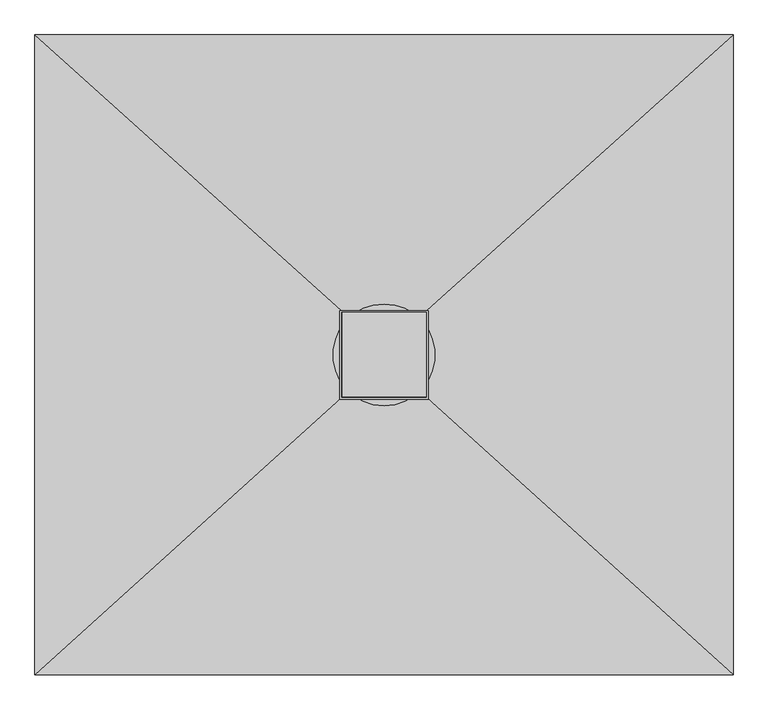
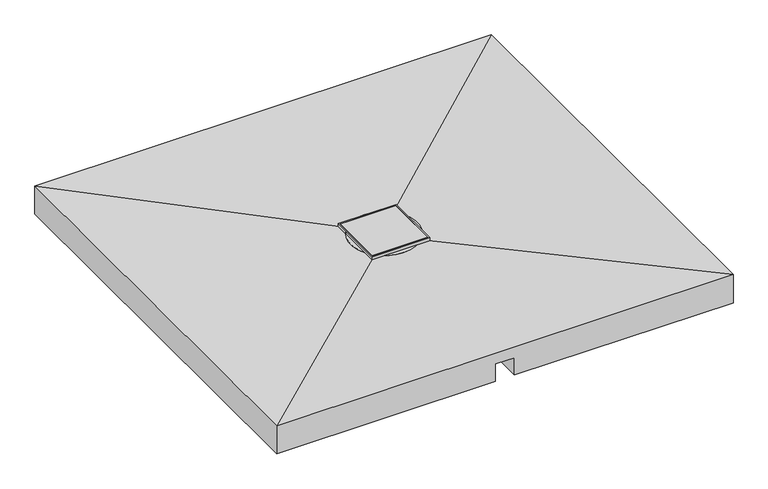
"""IFC4 building model written with IfcOpenShell, lengths in millimetres: sanitary terminal geometry, NLRS_PF_52_UN_Showerboard Aqua Brilliant_Easydrain : Aqua Brilliant zijuitloop laag 50mm."""

from ifc_helpers import new_model, si_unit, point, frame, frame_2d, origin, origin_2d, place, context, project, spatial, polyline, circle_curve, trimmed, segment, composite_curve, outline, extrude, faceted_brep, source, transform, mapped, element, save
from ifc_brep_helpers import plane_surface, cylinder_surface, revolved_surface, advanced_brep


def sanitary_terminal_1113593c(model_context):
    return source(origin(), model_context, "Body", "SolidModel", [
        extrude(outline(composite_curve([segment(trimmed(circle_curve(frame_2d((-49.5, 0.0)), 25.0), [point((-74.5, 0.0))], [point((-24.5, 0.0))], False, "CARTESIAN"), True, "CONTINUOUS"), segment(trimmed(circle_curve(frame_2d((-49.5, 0.0)), 25.0), [point((-24.5, 0.0))], [point((-74.5, 0.0))], False, "CARTESIAN"), True, "CONTINUOUS")], self_intersect=False)), frame((0.0, -125.0, 0.0), z_axis=(0.0, 1.0, 0.0), x_axis=(0.0, 0.0, 1.0)), (0.0, 0.0, 1.0), 125.0),
        faceted_brep([(600.0, 550.0, -77.0), (600.0, -550.0, -77.0), (25.0, -550.0, -77.0), (25.0, 0.0, -77.0), (-25.0, 0.0, -77.0), (-25.0, -550.0, -77.0), (-600.0, -550.0, -77.0), (-600.0, 550.0, -77.0), (-600.0, 550.0, 1.0), (600.0, 550.0, 1.0), (-600.0, -550.0, 1.0), (-25.0, -550.0, -29.0), (25.0, -550.0, -29.0), (600.0, -550.0, 1.0), (73.0, 76.0, -9.0), (-73.0, 76.0, -9.0), (-73.0, -73.0, -9.0), (73.0, -73.0, -9.0), (-25.0, 0.0, -29.0), (25.0, 0.0, -29.0)], [[[0, 1, 2, 3, 4, 5, 6, 7]], [[0, 7, 8, 9]], [[7, 6, 10, 8]], [[10, 6, 5, 11, 12, 2, 1, 13]], [[1, 0, 9, 13]], [[14, 15, 16, 17]], [[15, 14, 9, 8]], [[16, 15, 8, 10]], [[17, 16, 10, 13]], [[14, 17, 13, 9]], [[18, 4, 3, 19]], [[18, 19, 12, 11]], [[19, 3, 2, 12]], [[4, 18, 11, 5]]]),
        extrude(outline(polyline([(76.0, 76.0), (76.0, -76.0), (-76.0, -76.0), (-76.0, 76.0), (76.0, 76.0)]), holes=[polyline([(73.0, 73.0), (-73.0, 73.0), (-73.0, -73.0), (73.0, -73.0), (73.0, 73.0)])]), frame((0.0, 0.0, -9.0), z_axis=(0.0, 0.0, 1.0), x_axis=(1.0, 0.0, 0.0)), (0.0, 0.0, 1.0), 9.0),
        extrude(outline(polyline([(74.0, 74.0), (74.0, -72.0), (-72.0, -72.0), (-72.0, 74.0), (74.0, 74.0)])), frame((0.0, 0.0, -9.0), z_axis=(0.0, 0.0, 1.0), x_axis=(1.0, 0.0, 0.0)), (0.0, 0.0, 1.0), 9.0),
        extrude(outline(composite_curve([segment(trimmed(circle_curve(origin_2d(), 87.5), [point((0.0, 87.5))], [point((0.0, -87.5))], False, "CARTESIAN"), True, "CONTINUOUS"), segment(trimmed(circle_curve(origin_2d(), 87.5), [point((0.0, -87.5))], [point((0.0, 87.5))], False, "CARTESIAN"), True, "CONTINUOUS")], self_intersect=False)), frame((0.0, 0.0, -11.0), z_axis=(0.0, 0.0, 1.0), x_axis=(1.0, 0.0, 0.0)), (0.0, 0.0, 1.0), 3.0),
        advanced_brep(
        [(25.0, 0.0, -77.0), (-25.0, 0.0, -77.0), (-73.0, 0.0, -77.0), (-72.9614474, 2.372172, -77.0), (-97.0710678, 26.4817925, -77.0), (-90.348995, 43.5467685, -77.0), (-57.7248547, 44.6860286, -77.0), (57.7248547, 44.6860286, -77.0), (90.348995, 43.5467685, -77.0), (97.0710678, 26.4817925, -77.0), (72.9614474, 2.372172, -77.0), (73.0, 0.0, -77.0), (-25.0, -62.3925051, -77.0), (-37.8969037, -62.3925051, -77.0), (37.8969037, -62.3925051, -77.0), (25.0, -62.3925051, -77.0), (73.0, 0.0, -9.0), (-73.0, 0.0, -9.0), (-25.0, 0.0, -9.0), (25.0, 0.0, -9.0), (85.3290047, 0.0, -43.5), (-85.3290047, 0.0, -43.5), (-73.0, 0.0, -43.5), (73.0, 0.0, -43.5), (-58.2083701, -62.3925051, -43.5), (-37.8969037, -62.3925051, -43.5), (37.8969037, -62.3925051, -43.5), (58.2083701, -62.3925051, -43.5), (85.3290047, 0.0, -46.0), (-85.3290047, 0.0, -46.0), (58.2083701, -62.3925051, -46.0), (-58.2083701, -62.3925051, -46.0), (73.0, 0.0, -46.0), (-73.0, 0.0, -46.0), (37.8969037, -62.3925051, -46.0), (-37.8969037, -62.3925051, -46.0), (-25.0, -62.3925051, -43.5), (-25.0, 0.0, -43.5), (25.0, 0.0, -43.5), (25.0, -62.3925051, -43.5), (-97.0710678, 26.4817925, -73.5), (-72.9614474, 2.372172, -73.5), (-57.7248547, 44.6860286, -73.5), (-90.348995, 43.5467685, -73.5), (97.0710678, 26.4817925, -73.5), (90.348995, 43.5467685, -73.5), (57.7248547, 44.6860286, -73.5), (72.9614474, 2.372172, -73.5)],
        [
            (0, 1, circle_curve(frame((0.0, 0.0, -77.0), z_axis=(0.0, 0.0, 1.0), x_axis=(-1.0, 0.0, 0.0)), 25.0)),
            (1, 2),
            (2, 3, circle_curve(frame((0.0, 0.0, -77.0), z_axis=(0.0, 0.0, -1.0), x_axis=(-1.0, 0.0, 0.0)), 73.0)),
            (3, 4),
            (4, 5, circle_curve(frame((-90.0, 33.5528603, -77.0), z_axis=(0.0, 0.0, -1.0), x_axis=(-1.0, 0.0, 0.0)), 10.0)),
            (5, 6),
            (6, 7, circle_curve(frame((0.0, 0.0, -77.0), z_axis=(0.0, 0.0, -1.0), x_axis=(-1.0, 0.0, 0.0)), 73.0)),
            (7, 8),
            (8, 9, circle_curve(frame((90.0, 33.5528603, -77.0), z_axis=(0.0, 0.0, -1.0), x_axis=(-1.0, 0.0, 0.0)), 10.0)),
            (9, 10),
            (10, 11, circle_curve(frame((0.0, 0.0, -77.0), z_axis=(0.0, 0.0, -1.0), x_axis=(-1.0, 0.0, 0.0)), 73.0)),
            (11, 0),
            (1, 12),
            (12, 13),
            (13, 2, circle_curve(frame((0.0, 0.0, -77.0), z_axis=(0.0, 0.0, -1.0), x_axis=(-1.0, 0.0, 0.0)), 73.0)),
            (11, 14, circle_curve(frame((0.0, 0.0, -77.0), z_axis=(0.0, 0.0, -1.0), x_axis=(-1.0, 0.0, 0.0)), 73.0)),
            (14, 15),
            (15, 0),
            (16, 17, circle_curve(frame((0.0, 0.0, -9.0), z_axis=(0.0, 0.0, 1.0), x_axis=(-1.0, 0.0, 0.0)), 73.0)),
            (17, 18),
            (18, 19, circle_curve(frame((0.0, 0.0, -9.0), z_axis=(0.0, 0.0, -1.0), x_axis=(-1.0, 0.0, 0.0)), 25.0)),
            (19, 16),
            (17, 16, circle_curve(frame((0.0, 0.0, -9.0), z_axis=(0.0, 0.0, 1.0), x_axis=(-1.0, 0.0, 0.0)), 73.0)),
            (19, 18, circle_curve(frame((0.0, 0.0, -9.0), z_axis=(0.0, 0.0, -1.0), x_axis=(-1.0, 0.0, 0.0)), 25.0)),
            (20, 21, circle_curve(frame((0.0, 0.0, -43.5), z_axis=(0.0, 0.0, 1.0), x_axis=(-1.0, 0.0, 0.0)), 85.3290047)),
            (21, 22),
            (22, 23, circle_curve(frame((0.0, 0.0, -43.5), z_axis=(0.0, 0.0, -1.0), x_axis=(-1.0, 0.0, 0.0)), 73.0)),
            (23, 20),
            (21, 24, circle_curve(frame((0.0, 0.0, -43.5), z_axis=(0.0, 0.0, 1.0), x_axis=(-1.0, 0.0, 0.0)), 85.3290047)),
            (24, 25),
            (25, 22, circle_curve(frame((0.0, 0.0, -43.5), z_axis=(0.0, 0.0, -1.0), x_axis=(-1.0, 0.0, 0.0)), 73.0)),
            (23, 26, circle_curve(frame((0.0, 0.0, -43.5), z_axis=(0.0, 0.0, -1.0), x_axis=(-1.0, 0.0, 0.0)), 73.0)),
            (26, 27),
            (27, 20, circle_curve(frame((0.0, 0.0, -43.5), z_axis=(0.0, 0.0, 1.0), x_axis=(-1.0, 0.0, 0.0)), 85.3290047)),
            (20, 28),
            (28, 29, circle_curve(frame((0.0, 0.0, -46.0), z_axis=(0.0, 0.0, 1.0), x_axis=(-1.0, 0.0, 0.0)), 85.3290047)),
            (29, 21),
            (27, 30),
            (30, 28, circle_curve(frame((0.0, 0.0, -46.0), z_axis=(0.0, 0.0, 1.0), x_axis=(-1.0, 0.0, 0.0)), 85.3290047)),
            (29, 31, circle_curve(frame((0.0, 0.0, -46.0), z_axis=(0.0, 0.0, 1.0), x_axis=(-1.0, 0.0, 0.0)), 85.3290047)),
            (31, 24),
            (28, 32),
            (32, 33, circle_curve(frame((0.0, 0.0, -46.0), z_axis=(0.0, 0.0, 1.0), x_axis=(-1.0, 0.0, 0.0)), 73.0)),
            (33, 29),
            (30, 34),
            (34, 32, circle_curve(frame((0.0, 0.0, -46.0), z_axis=(0.0, 0.0, 1.0), x_axis=(-1.0, 0.0, 0.0)), 73.0)),
            (33, 35, circle_curve(frame((0.0, 0.0, -46.0), z_axis=(0.0, 0.0, 1.0), x_axis=(-1.0, 0.0, 0.0)), 73.0)),
            (35, 31),
            (25, 36),
            (36, 37),
            (37, 38, circle_curve(frame((0.0, 0.0, -43.5), z_axis=(0.0, 0.0, 1.0), x_axis=(-1.0, 0.0, 0.0)), 25.0)),
            (38, 39),
            (39, 26),
            (26, 25, circle_curve(frame((0.0, 0.0, -43.5), z_axis=(0.0, 0.0, -1.0), x_axis=(-1.0, 0.0, 0.0)), 73.0)),
            (35, 13),
            (12, 36),
            (39, 15),
            (14, 34),
            (40, 41),
            (41, 42, circle_curve(frame((0.0, 0.0, -73.5), z_axis=(0.0, 0.0, -1.0), x_axis=(-1.0, 0.0, 0.0)), 73.0)),
            (42, 43),
            (43, 40, circle_curve(frame((-90.0, 33.5528603, -73.5), z_axis=(0.0, 0.0, 1.0), x_axis=(-1.0, 0.0, 0.0)), 10.0)),
            (44, 45, circle_curve(frame((90.0, 33.5528603, -73.5), z_axis=(0.0, 0.0, 1.0), x_axis=(-1.0, 0.0, 0.0)), 10.0)),
            (45, 46),
            (46, 47, circle_curve(frame((0.0, 0.0, -73.5), z_axis=(0.0, 0.0, -1.0), x_axis=(-1.0, 0.0, 0.0)), 73.0)),
            (47, 44),
            (40, 4),
            (3, 41),
            (42, 6),
            (5, 43),
            (0, 38),
            (38, 19),
            (18, 37),
            (37, 1),
            (16, 23),
            (22, 17),
            (32, 11),
            (10, 47),
            (46, 7),
            (2, 33),
            (44, 9),
            (8, 45),
        ],
        [
            plane_surface(frame((0.0, 0.0, -77.0), z_axis=(0.0, 0.0, -1.0), x_axis=(-1.0, 0.0, 0.0))),
            plane_surface(frame((0.0, 0.0, -9.0), z_axis=(0.0, 0.0, 1.0), x_axis=(-1.0, 0.0, 0.0))),
            plane_surface(frame((0.0, 0.0, -43.5), z_axis=(0.0, 0.0, 1.0), x_axis=(-1.0, 0.0, 0.0))),
            cylinder_surface(frame((0.0, 0.0, -46.0), z_axis=(0.0, 0.0, -1.0), x_axis=(-1.0, 0.0, 0.0)), 85.3290047),
            plane_surface(frame((0.0, 0.0, -46.0), z_axis=(0.0, 0.0, -1.0), x_axis=(-1.0, 0.0, 0.0))),
            plane_surface(frame((73.895712, -62.3925051, -43.5), z_axis=(0.0, 0.0, -1.0), x_axis=(-1.0, 0.0, 0.0))),
            plane_surface(frame((73.895712, -62.3925051, -77.0), z_axis=(0.0, -1.0, 0.0), x_axis=(-1.0, 0.0, 0.0))),
            plane_surface(frame((-72.9614474, 2.372172, -73.5), z_axis=(0.0, 0.0, 1.0), x_axis=(0.7071067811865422, -0.7071067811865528, 0.0))),
            plane_surface(frame((-97.0710678, 26.4817925, -73.5), z_axis=(-0.7071067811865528, -0.7071067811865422, 0.0), x_axis=(0.0, 0.0, -1.0))),
            plane_surface(frame((-57.7248547, 44.6860286, -73.5), z_axis=(-0.03489949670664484, 0.9993908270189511, 0.0), x_axis=(0.0, 0.0, -1.0))),
            cylinder_surface(frame((-90.0, 33.5528603, -77.0), z_axis=(0.0, 0.0, 1.0), x_axis=(-1.0, 0.0, 0.0)), 10.0),
            revolved_surface(polyline([(-25.0, 0.0, -77.0), (-25.0, 0.0, -9.0)]), (0.0, 0.0, -46.0), (0.0, 0.0, -1.0)),
            revolved_surface(polyline([(-25.0, 0.0, -43.5), (-25.0, 0.0, -9.0)]), (0.0, 0.0, -46.0), (0.0, 0.0, -1.0)),
            cylinder_surface(frame((0.0, 0.0, -46.0), z_axis=(0.0, 0.0, -1.0), x_axis=(-1.0, 0.0, 0.0)), 73.0),
            plane_surface(frame((-25.0, -250.0, -43.5), z_axis=(1.0, 0.0, 0.0), x_axis=(0.0, 1.0, 0.0))),
            plane_surface(frame((25.0, -250.0, -77.0), z_axis=(-1.0, 0.0, 0.0), x_axis=(0.0, 1.0, 0.0))),
            cylinder_surface(frame((90.0, 33.5528603, -77.0), z_axis=(0.0, 0.0, 1.0), x_axis=(-1.0, 0.0, 0.0)), 10.0),
            plane_surface(frame((90.348995, 43.5467685, -73.5), z_axis=(0.034899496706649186, 0.9993908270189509, 0.0), x_axis=(0.0, 0.0, -1.0))),
            plane_surface(frame((72.9614474, 2.372172, -73.5), z_axis=(0.7071067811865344, -0.7071067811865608, 0.0), x_axis=(0.0, 0.0, -1.0))),
        ],
        [
            (0, [[1, 2, 3, 4, 5, 6, 7, 8, 9, 10, 11, 12]]),
            (0, [[-2, 13, 14, 15]]),
            (0, [[-12, 16, 17, 18]]),
            (1, [[19, 20, 21, 22]]),
            (1, [[-20, 23, -22, 24]]),
            (2, [[25, 26, 27, 28]]),
            (2, [[-26, 29, 30, 31]]),
            (2, [[-28, 32, 33, 34]]),
            (3, [[-25, 35, 36, 37]]),
            (3, [[-35, -34, 38, 39]]),
            (3, [[-37, 40, 41, -29]]),
            (4, [[-36, 42, 43, 44]]),
            (4, [[-42, -39, 45, 46]]),
            (4, [[-44, 47, 48, -40]]),
            (5, [[49, 50, 51, 52, 53, 54]]),
            (6, [[-30, -41, -48, 55, -14, 56, -49]]),
            (6, [[-33, -53, 57, -17, 58, -45, -38]]),
            (7, [[59, 60, 61, 62]]),
            (7, [[63, 64, 65, 66]]),
            (8, [[-59, 67, -4, 68]]),
            (9, [[-61, 69, -6, 70]]),
            (10, [[-62, -70, -5, -67]]),
            (11, [[-1, 71, 72, -21, 73, 74]]),
            (12, [[-24, -72, -51, -73]]),
            (13, [[-19, 75, -27, 76]]),
            (13, [[-23, -76, -31, -54, -32, -75]]),
            (13, [[-43, 77, -11, 78, -65, 79, -7, -69, -60, -68, -3, 80]]),
            (13, [[-77, -46, -58, -16]]),
            (13, [[-80, -15, -55, -47]]),
            (14, [[-50, -56, -13, -74]]),
            (15, [[-52, -71, -18, -57]]),
            (16, [[-63, 81, -9, 82]]),
            (17, [[-64, -82, -8, -79]]),
            (18, [[-66, -78, -10, -81]]),
        ],
    ),
    ])


if __name__ == "__main__":
    model = new_model("IFC4")
    model_context = context("Model", 3, world=origin())
    ifc_project = project(units=[si_unit("LENGTHUNIT", "METRE", prefix="MILLI")], contexts=[model_context])
    site = spatial("IfcSite", under=ifc_project)
    building = spatial("IfcBuilding", under=site)
    placement = place(None, origin())
    sanitary_terminal_shape = sanitary_terminal_1113593c(model_context)
    element("IfcSanitaryTerminal", 1, ObjectType="NLRS_PF_52_UN_Showerboard Aqua Brilliant_Easydrain : Aqua Brilliant zijuitloop laag 50mm", at=placement, inside=building, context=model_context, shape_type="MappedRepresentation", body=[
        mapped(sanitary_terminal_shape, transform((0.0, 0.0, 0.0), x_axis=(1.0, 0.0, 0.0), y_axis=(0.0, 1.0, 0.0), z_axis=(0.0, 0.0, 1.0))),
    ])
    save(model, "model.ifc")
